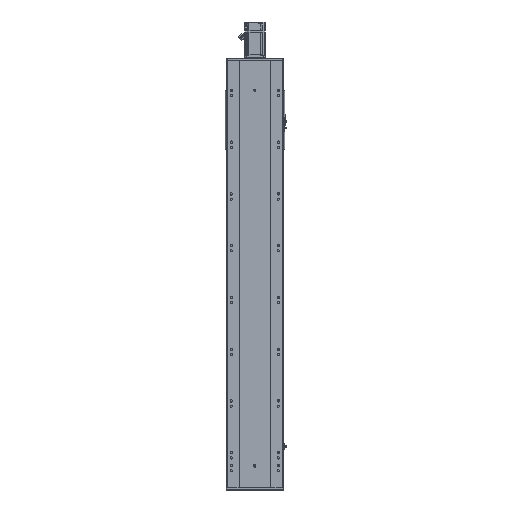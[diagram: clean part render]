
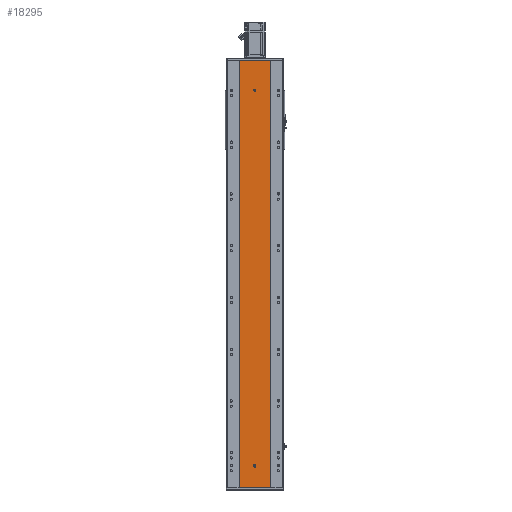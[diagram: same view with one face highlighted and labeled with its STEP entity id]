
A CAD part, front view. The second image highlights one B-rep face of the part: STEP entity #18295.
In plain terms, the highlighted planar face has unit normal (0, -1, 0).
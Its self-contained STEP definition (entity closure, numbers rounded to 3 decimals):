
#59 = VERTEX_POINT ( 'NONE', #4226 ) ;
#166 = VERTEX_POINT ( 'NONE', #34767 ) ;
#3087 = ORIENTED_EDGE ( 'NONE', *, *, #40994, .F. ) ;
#4226 = CARTESIAN_POINT ( 'NONE',  ( 60., 0., 1650. ) ) ;
#5347 = CARTESIAN_POINT ( 'NONE',  ( 0., 0., 84.5 ) ) ;
#5721 = ORIENTED_EDGE ( 'NONE', *, *, #49494, .T. ) ;
#6325 = CARTESIAN_POINT ( 'NONE',  ( 0., 0., 87.5 ) ) ;
#6754 = VECTOR ( 'NONE', #15537, 1000. ) ;
#7335 = AXIS2_PLACEMENT_3D ( 'NONE', #48818, #27860, #27352 ) ;
#7413 = CIRCLE ( 'NONE', #34196, 4. ) ;
#9109 = AXIS2_PLACEMENT_3D ( 'NONE', #26153, #61087, #61571 ) ;
#10663 = DIRECTION ( 'NONE',  ( 0., 0., 1. ) ) ;
#11145 = FACE_OUTER_BOUND ( 'NONE', #33788, .T. ) ;
#11157 = DIRECTION ( 'NONE',  ( 0., -1., 0. ) ) ;
#12464 = LINE ( 'NONE', #30861, #56828 ) ;
#13525 = EDGE_CURVE ( 'NONE', #14682, #46006, #61476, .T. ) ;
#13743 = VERTEX_POINT ( 'NONE', #24310 ) ;
#13798 = AXIS2_PLACEMENT_3D ( 'NONE', #6325, #11157, #69603 ) ;
#14646 = ORIENTED_EDGE ( 'NONE', *, *, #40032, .F. ) ;
#14682 = VERTEX_POINT ( 'NONE', #46515 ) ;
#15537 = DIRECTION ( 'NONE',  ( 0., 0., -1. ) ) ;
#15918 = VERTEX_POINT ( 'NONE', #18370 ) ;
#16477 = DIRECTION ( 'NONE',  ( 0., -1., 0. ) ) ;
#17613 = VERTEX_POINT ( 'NONE', #30838 ) ;
#18295 = ADVANCED_FACE ( 'NONE', ( #37480, #33838, #11145 ), #60835, .F. ) ;
#18370 = CARTESIAN_POINT ( 'NONE',  ( -60., 0., 0. ) ) ;
#18996 = ORIENTED_EDGE ( 'NONE', *, *, #27753, .F. ) ;
#19257 = EDGE_CURVE ( 'NONE', #37041, #166, #27334, .T. ) ;
#19810 = EDGE_LOOP ( 'NONE', ( #47307, #3087 ) ) ;
#20666 = VECTOR ( 'NONE', #10663, 1000. ) ;
#22123 = CARTESIAN_POINT ( 'NONE',  ( -4., 0., 84.5 ) ) ;
#24310 = CARTESIAN_POINT ( 'NONE',  ( 0., 0., 1540. ) ) ;
#25442 = DIRECTION ( 'NONE',  ( 1., 0., 0. ) ) ;
#26153 = CARTESIAN_POINT ( 'NONE',  ( -60., 0., 1650. ) ) ;
#26367 = CARTESIAN_POINT ( 'NONE',  ( -60., 0., 1650. ) ) ;
#27334 = CIRCLE ( 'NONE', #47394, 4. ) ;
#27352 = DIRECTION ( 'NONE',  ( 0., 0., -1. ) ) ;
#27354 = EDGE_CURVE ( 'NONE', #166, #14682, #36115, .T. ) ;
#27468 = VECTOR ( 'NONE', #25442, 1000. ) ;
#27753 = EDGE_CURVE ( 'NONE', #59, #44142, #12464, .T. ) ;
#27860 = DIRECTION ( 'NONE',  ( 0., -1., 0. ) ) ;
#28074 = CARTESIAN_POINT ( 'NONE',  ( -60., 0., 1650. ) ) ;
#28100 = CARTESIAN_POINT ( 'NONE',  ( 0., 0., 1536. ) ) ;
#28718 = AXIS2_PLACEMENT_3D ( 'NONE', #28100, #74404, #39773 ) ;
#29642 = CARTESIAN_POINT ( 'NONE',  ( -60., 0., 0. ) ) ;
#30838 = CARTESIAN_POINT ( 'NONE',  ( 0., 0., 1532. ) ) ;
#30861 = CARTESIAN_POINT ( 'NONE',  ( 60., 0., 1650. ) ) ;
#32998 = CIRCLE ( 'NONE', #28718, 4. ) ;
#33788 = EDGE_LOOP ( 'NONE', ( #38654, #18996, #55116, #5721 ) ) ;
#33838 = FACE_BOUND ( 'NONE', #62793, .T. ) ;
#34196 = AXIS2_PLACEMENT_3D ( 'NONE', #61286, #67809, #61774 ) ;
#34480 = CARTESIAN_POINT ( 'NONE',  ( -4., 0., 87.5 ) ) ;
#34767 = CARTESIAN_POINT ( 'NONE',  ( 4., 0., 84.5 ) ) ;
#36115 = LINE ( 'NONE', #44775, #20666 ) ;
#36358 = CARTESIAN_POINT ( 'NONE',  ( -60., 0., 1650. ) ) ;
#37041 = VERTEX_POINT ( 'NONE', #55509 ) ;
#37480 = FACE_BOUND ( 'NONE', #19810, .T. ) ;
#38035 = DIRECTION ( 'NONE',  ( 0., 0., -1. ) ) ;
#38654 = ORIENTED_EDGE ( 'NONE', *, *, #53210, .T. ) ;
#39773 = DIRECTION ( 'NONE',  ( 0., 0., -1. ) ) ;
#40032 = EDGE_CURVE ( 'NONE', #62044, #37041, #61159, .T. ) ;
#40474 = EDGE_CURVE ( 'NONE', #46006, #62044, #71016, .T. ) ;
#40994 = EDGE_CURVE ( 'NONE', #13743, #17613, #32998, .T. ) ;
#42238 = EDGE_CURVE ( 'NONE', #17613, #13743, #7413, .T. ) ;
#44142 = VERTEX_POINT ( 'NONE', #54958 ) ;
#44775 = CARTESIAN_POINT ( 'NONE',  ( 4., 0., 84.5 ) ) ;
#45868 = LINE ( 'NONE', #26367, #71245 ) ;
#46006 = VERTEX_POINT ( 'NONE', #34480 ) ;
#46051 = DIRECTION ( 'NONE',  ( 0., 0., -1. ) ) ;
#46515 = CARTESIAN_POINT ( 'NONE',  ( 4., 0., 87.5 ) ) ;
#47307 = ORIENTED_EDGE ( 'NONE', *, *, #42238, .F. ) ;
#47394 = AXIS2_PLACEMENT_3D ( 'NONE', #5347, #16477, #46051 ) ;
#48818 = CARTESIAN_POINT ( 'NONE',  ( 0., 0., 84.5 ) ) ;
#49494 = EDGE_CURVE ( 'NONE', #56546, #15918, #45868, .T. ) ;
#51873 = DIRECTION ( 'NONE',  ( 1., 0., 0. ) ) ;
#53210 = EDGE_CURVE ( 'NONE', #15918, #44142, #63492, .T. ) ;
#53339 = DIRECTION ( 'NONE',  ( 0., 0., -1. ) ) ;
#54958 = CARTESIAN_POINT ( 'NONE',  ( 60., 0., 0. ) ) ;
#55116 = ORIENTED_EDGE ( 'NONE', *, *, #72882, .F. ) ;
#55509 = CARTESIAN_POINT ( 'NONE',  ( 0., 0., 80.5 ) ) ;
#56546 = VERTEX_POINT ( 'NONE', #28074 ) ;
#56828 = VECTOR ( 'NONE', #53339, 1000. ) ;
#60835 = PLANE ( 'NONE',  #9109 ) ;
#61087 = DIRECTION ( 'NONE',  ( 0., 1., 0. ) ) ;
#61159 = CIRCLE ( 'NONE', #7335, 4. ) ;
#61286 = CARTESIAN_POINT ( 'NONE',  ( 0., 0., 1536. ) ) ;
#61476 = CIRCLE ( 'NONE', #13798, 4. ) ;
#61571 = DIRECTION ( 'NONE',  ( 0., 0., 1. ) ) ;
#61774 = DIRECTION ( 'NONE',  ( 0., 0., -1. ) ) ;
#61890 = LINE ( 'NONE', #36358, #27468 ) ;
#62044 = VERTEX_POINT ( 'NONE', #64082 ) ;
#62793 = EDGE_LOOP ( 'NONE', ( #71259, #66836, #14646, #70655, #65297 ) ) ;
#63492 = LINE ( 'NONE', #29642, #68052 ) ;
#64082 = CARTESIAN_POINT ( 'NONE',  ( -4., 0., 84.5 ) ) ;
#65297 = ORIENTED_EDGE ( 'NONE', *, *, #13525, .F. ) ;
#66836 = ORIENTED_EDGE ( 'NONE', *, *, #19257, .F. ) ;
#67809 = DIRECTION ( 'NONE',  ( 0., -1., 0. ) ) ;
#68052 = VECTOR ( 'NONE', #51873, 1000. ) ;
#69603 = DIRECTION ( 'NONE',  ( 0., 0., -1. ) ) ;
#70655 = ORIENTED_EDGE ( 'NONE', *, *, #40474, .F. ) ;
#71016 = LINE ( 'NONE', #22123, #6754 ) ;
#71245 = VECTOR ( 'NONE', #38035, 1000. ) ;
#71259 = ORIENTED_EDGE ( 'NONE', *, *, #27354, .F. ) ;
#72882 = EDGE_CURVE ( 'NONE', #56546, #59, #61890, .T. ) ;
#74404 = DIRECTION ( 'NONE',  ( 0., -1., 0. ) ) ;
